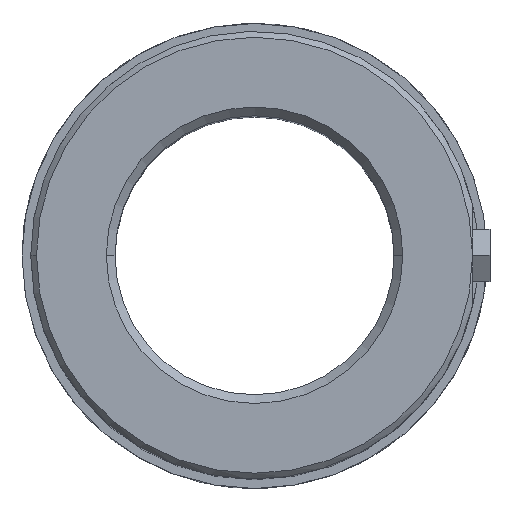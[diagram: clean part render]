
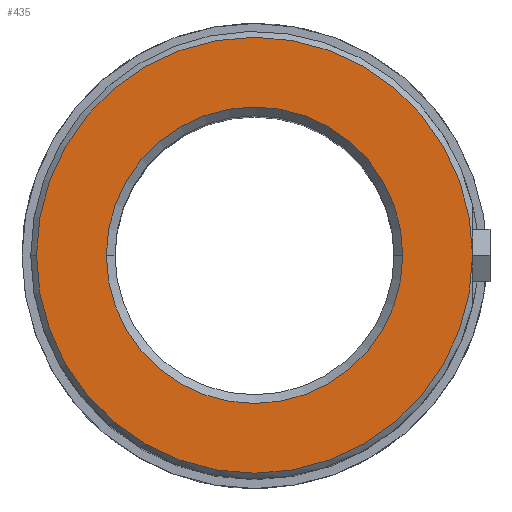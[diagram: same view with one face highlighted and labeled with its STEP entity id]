
A CAD part, top view. The second image highlights one B-rep face of the part: STEP entity #435.
In plain terms, the highlighted planar face has unit normal (0, 0, 1).
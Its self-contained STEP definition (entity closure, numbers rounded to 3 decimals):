
#317=CARTESIAN_POINT('Axis2P3D Location',(0.,0.,80.)) ;
#321=CARTESIAN_POINT('Vertex',(25.5,0.,80.)) ;
#323=CARTESIAN_POINT('Vertex',(-25.5,0.,80.)) ;
#379=CARTESIAN_POINT('Axis2P3D Location',(0.,0.,80.)) ;
#408=CARTESIAN_POINT('Axis2P3D Location',(25.5,0.,80.)) ;
#413=CARTESIAN_POINT('Axis2P3D Location',(0.,0.,80.)) ;
#417=CARTESIAN_POINT('Vertex',(37.5,0.,80.)) ;
#419=CARTESIAN_POINT('Vertex',(-37.5,0.,80.)) ;
#422=CARTESIAN_POINT('Axis2P3D Location',(0.,0.,80.)) ;
#318=DIRECTION('Axis2P3D Direction',(0.,-0.,1.)) ;
#380=DIRECTION('Axis2P3D Direction',(0.,-0.,1.)) ;
#409=DIRECTION('Axis2P3D Direction',(0.,-0.,1.)) ;
#410=DIRECTION('Axis2P3D XDirection',(1.,0.,0.)) ;
#414=DIRECTION('Axis2P3D Direction',(0.,-0.,1.)) ;
#423=DIRECTION('Axis2P3D Direction',(0.,-0.,1.)) ;
#319=AXIS2_PLACEMENT_3D('Circle Axis2P3D',#317,#318,$) ;
#381=AXIS2_PLACEMENT_3D('Circle Axis2P3D',#379,#380,$) ;
#411=AXIS2_PLACEMENT_3D('Plane Axis2P3D',#408,#409,#410) ;
#415=AXIS2_PLACEMENT_3D('Circle Axis2P3D',#413,#414,$) ;
#424=AXIS2_PLACEMENT_3D('Circle Axis2P3D',#422,#423,$) ;
#428=ORIENTED_EDGE('',*,*,#421,.T.) ;
#429=ORIENTED_EDGE('',*,*,#426,.T.) ;
#432=ORIENTED_EDGE('',*,*,#383,.F.) ;
#433=ORIENTED_EDGE('',*,*,#325,.F.) ;
#434=FACE_BOUND('',#431,.T.) ;
#435=ADVANCED_FACE('742-48',(#430,#434),#412,.T.) ;
#320=CIRCLE('generated circle',#319,25.5) ;
#382=CIRCLE('generated circle',#381,25.5) ;
#416=CIRCLE('generated circle',#415,37.5) ;
#425=CIRCLE('generated circle',#424,37.5) ;
#325=EDGE_CURVE('',#322,#324,#320,.T.) ;
#383=EDGE_CURVE('',#324,#322,#382,.T.) ;
#421=EDGE_CURVE('',#418,#420,#416,.T.) ;
#426=EDGE_CURVE('',#420,#418,#425,.T.) ;
#427=EDGE_LOOP('',(#428,#429)) ;
#431=EDGE_LOOP('',(#432,#433)) ;
#430=FACE_OUTER_BOUND('',#427,.T.) ;
#412=PLANE('Plane',#411) ;
#322=VERTEX_POINT('',#321) ;
#324=VERTEX_POINT('',#323) ;
#418=VERTEX_POINT('',#417) ;
#420=VERTEX_POINT('',#419) ;
